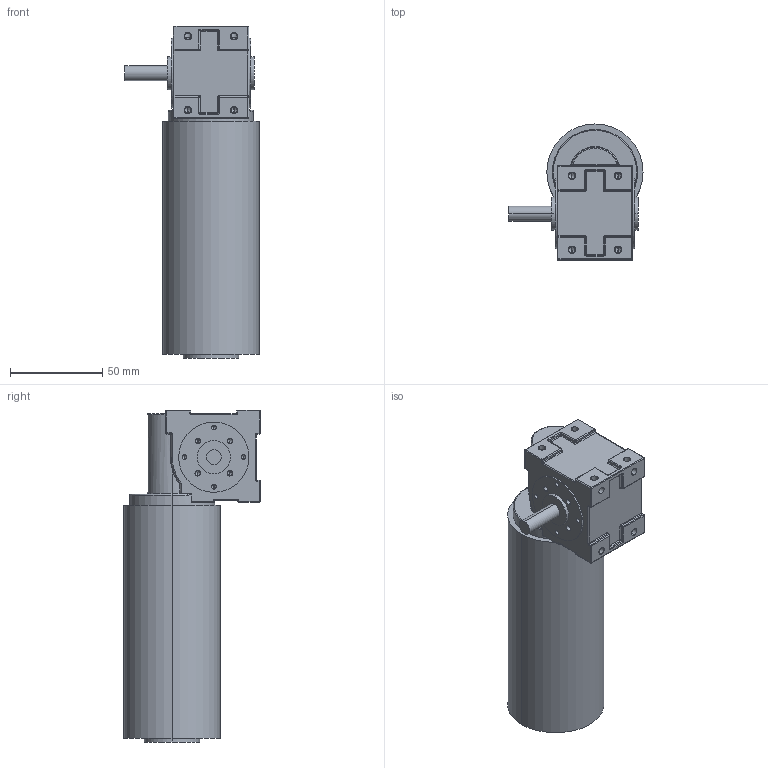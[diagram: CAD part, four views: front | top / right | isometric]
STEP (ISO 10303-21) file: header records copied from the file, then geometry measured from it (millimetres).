
FILE_DESCRIPTION (( 'STEP AP203' ), '1' );
FILE_NAME ('SN15-54W-2.STEP', '2007-04-25T09:31:10', ( ' ' ), ( ' ' ), 'SwSTEP 2.0', 'SolidWorks 2006233', '' );
FILE_SCHEMA (( 'CONFIG_CONTROL_DESIGN' ));
Length unit declared in the file: millimetre
Products named in the file (3): SN15-54W-2; SN15-2_Standard; 54W-GP_Standard
Assembly tree (2 placements, depth 2):
  SN15-54W-2
    54W-GP_Standard
    SN15-2_Standard
Bounding box: 72.5 x 73.62 x 179.5 mm (x, y, z)
Volume: 382891.2 mm3; surface area: 43769.9 mm2
Topology: 2 solids, 2 shells, 435 faces, 1017 edges, 537 vertices
Faces by surface type: cylinder 228, plane 71, cone 44, sphere 40, torus 38, bspline 14
Entity records: 12630 total; most frequent: CARTESIAN_POINT 2852, DIRECTION 2169, ORIENTED_EDGE 1856, EDGE_CURVE 928, AXIS2_PLACEMENT_3D 890, VERTEX_POINT 537, EDGE_LOOP 479, CIRCLE 464
